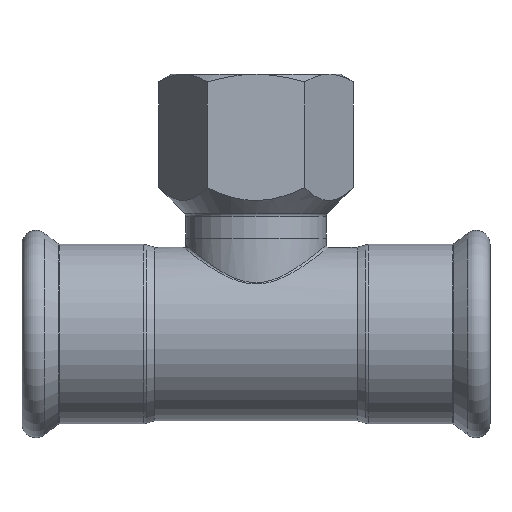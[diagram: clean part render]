
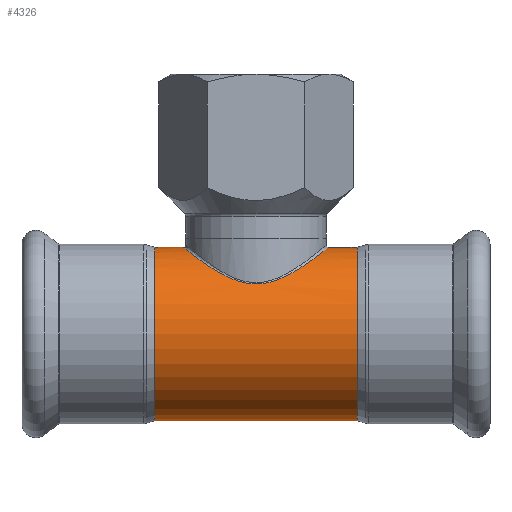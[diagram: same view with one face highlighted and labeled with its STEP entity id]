
A CAD part, front view. The second image highlights one B-rep face of the part: STEP entity #4326.
In plain terms, the highlighted cylindrical face has radius 18.5 mm (diameter 37 mm), a partial arc.
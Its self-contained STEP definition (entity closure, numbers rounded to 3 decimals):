
#71 = VERTEX_POINT ( 'NONE', #2841 ) ;
#145 = DIRECTION ( 'NONE',  ( 1., 0., 0. ) ) ;
#288 = CARTESIAN_POINT ( 'NONE',  ( 15.5, -0.505, 18.5 ) ) ;
#301 = CARTESIAN_POINT ( 'NONE',  ( 21.604, 0., -18.5 ) ) ;
#309 = CARTESIAN_POINT ( 'NONE',  ( -14.321, -5.793, 17.576 ) ) ;
#324 = CARTESIAN_POINT ( 'NONE',  ( -3.739, -14.654, 11.293 ) ) ;
#334 = CARTESIAN_POINT ( 'NONE',  ( -21.604, 0., 18.5 ) ) ;
#337 = CARTESIAN_POINT ( 'NONE',  ( -2.039, -14.963, 10.879 ) ) ;
#405 = VERTEX_POINT ( 'NONE', #334 ) ;
#444 = EDGE_CURVE ( 'NONE', #71, #3693, #780, .T. ) ;
#452 = CIRCLE ( 'NONE', #4088, 18.5 ) ;
#513 = ORIENTED_EDGE ( 'NONE', *, *, #3012, .T. ) ;
#519 = EDGE_CURVE ( 'NONE', #3693, #1826, #452, .T. ) ;
#638 = CARTESIAN_POINT ( 'NONE',  ( -13.455, -7.507, 16.914 ) ) ;
#654 = CARTESIAN_POINT ( 'NONE',  ( 7.193, -13.376, 12.783 ) ) ;
#664 = CARTESIAN_POINT ( 'NONE',  ( -5.11, -14.256, 11.793 ) ) ;
#681 = CARTESIAN_POINT ( 'NONE',  ( -12.15, -9.414, 15.945 ) ) ;
#698 = ORIENTED_EDGE ( 'NONE', *, *, #444, .F. ) ;
#780 = LINE ( 'NONE', #3015, #1976 ) ;
#900 = ORIENTED_EDGE ( 'NONE', *, *, #4082, .T. ) ;
#940 = DIRECTION ( 'NONE',  ( 1., 0., 0. ) ) ;
#965 = CARTESIAN_POINT ( 'NONE',  ( -14.123, -6.238, 17.423 ) ) ;
#981 = CARTESIAN_POINT ( 'NONE',  ( -0.79, -15.08, 10.716 ) ) ;
#995 = DIRECTION ( 'NONE',  ( 0., 0., -1. ) ) ;
#997 = CARTESIAN_POINT ( 'NONE',  ( -2.78, -14.849, 11.034 ) ) ;
#1002 = EDGE_CURVE ( 'NONE', #4216, #3356, #3831, .T. ) ;
#1072 = FACE_OUTER_BOUND ( 'NONE', #2553, .T. ) ;
#1172 = CYLINDRICAL_SURFACE ( 'NONE', #2200, 18.5 ) ;
#1271 = CARTESIAN_POINT ( 'NONE',  ( 15.369, -2.025, 18.396 ) ) ;
#1296 = CARTESIAN_POINT ( 'NONE',  ( 6.367, -13.767, 12.361 ) ) ;
#1310 = CARTESIAN_POINT ( 'NONE',  ( -10.918, -10.75, 15.077 ) ) ;
#1322 = CARTESIAN_POINT ( 'NONE',  ( 0.217, -15.099, 10.69 ) ) ;
#1329 = CARTESIAN_POINT ( 'NONE',  ( 21.604, 0., 18.5 ) ) ;
#1333 = DIRECTION ( 'NONE',  ( 1., 0., 0. ) ) ;
#1481 = CARTESIAN_POINT ( 'NONE',  ( -15.289, -2.484, 18.332 ) ) ;
#1568 = CARTESIAN_POINT ( 'NONE',  ( -21.604, 0., -18.5 ) ) ;
#1571 = CARTESIAN_POINT ( 'NONE',  ( -15.289, -2.484, 18.332 ) ) ;
#1637 = CARTESIAN_POINT ( 'NONE',  ( 11.826, -9.797, 15.712 ) ) ;
#1650 = CARTESIAN_POINT ( 'NONE',  ( -13.688, -7.097, 17.091 ) ) ;
#1666 = CARTESIAN_POINT ( 'NONE',  ( -6.419, -13.745, 12.386 ) ) ;
#1707 = LINE ( 'NONE', #3979, #3124 ) ;
#1716 = DIRECTION ( 'NONE',  ( 1., 0., 0. ) ) ;
#1815 = CARTESIAN_POINT ( 'NONE',  ( 51.859, 0., 18.5 ) ) ;
#1816 = CARTESIAN_POINT ( 'NONE',  ( -15.5, -0.417, 18.5 ) ) ;
#1826 = VERTEX_POINT ( 'NONE', #301 ) ;
#1828 = CARTESIAN_POINT ( 'NONE',  ( -15.5, 0., 18.5 ) ) ;
#1925 = AXIS2_PLACEMENT_3D ( 'NONE', #2606, #940, #3284 ) ;
#1970 = CARTESIAN_POINT ( 'NONE',  ( 2.244, -14.966, 10.876 ) ) ;
#1976 = VECTOR ( 'NONE', #1333, 1000. ) ;
#1986 = CARTESIAN_POINT ( 'NONE',  ( 8.761, -12.458, 13.681 ) ) ;
#1997 = CARTESIAN_POINT ( 'NONE',  ( -1.291, -15.048, 10.762 ) ) ;
#2054 = DIRECTION ( 'NONE',  ( 0., 0., -1. ) ) ;
#2199 = ORIENTED_EDGE ( 'NONE', *, *, #519, .F. ) ;
#2200 = AXIS2_PLACEMENT_3D ( 'NONE', #2655, #1716, #2054 ) ;
#2206 = CARTESIAN_POINT ( 'NONE',  ( -15.117, -3.484, 18.197 ) ) ;
#2259 = DIRECTION ( 'NONE',  ( 1., 0., 0. ) ) ;
#2301 = CARTESIAN_POINT ( 'NONE',  ( -3.022, -14.804, 11.094 ) ) ;
#2315 = CARTESIAN_POINT ( 'NONE',  ( 5.066, -14.271, 11.776 ) ) ;
#2327 = CARTESIAN_POINT ( 'NONE',  ( 3.211, -14.795, 11.114 ) ) ;
#2353 = VERTEX_POINT ( 'NONE', #1568 ) ;
#2532 = CIRCLE ( 'NONE', #1925, 18.5 ) ;
#2553 = EDGE_LOOP ( 'NONE', ( #4344, #900, #513, #2199, #698, #3512, #2946 ) ) ;
#2606 = CARTESIAN_POINT ( 'NONE',  ( -21.604, 0., 0. ) ) ;
#2620 = CARTESIAN_POINT ( 'NONE',  ( 14.986, -3.979, 18.094 ) ) ;
#2647 = CARTESIAN_POINT ( 'NONE',  ( -14.85, -4.433, 17.986 ) ) ;
#2655 = CARTESIAN_POINT ( 'NONE',  ( 51.859, 0., 0. ) ) ;
#2666 = CARTESIAN_POINT ( 'NONE',  ( -4.203, -14.534, 11.448 ) ) ;
#2674 = CARTESIAN_POINT ( 'NONE',  ( -6.837, -13.552, 12.597 ) ) ;
#2815 = CARTESIAN_POINT ( 'NONE',  ( -15.359, -2.075, 18.388 ) ) ;
#2841 = CARTESIAN_POINT ( 'NONE',  ( 15.5, 0., 18.5 ) ) ;
#2946 = ORIENTED_EDGE ( 'NONE', *, *, #1002, .T. ) ;
#2959 = CARTESIAN_POINT ( 'NONE',  ( 14.69, -4.913, 17.861 ) ) ;
#2972 = CARTESIAN_POINT ( 'NONE',  ( -8.051, -12.927, 13.247 ) ) ;
#2986 = CARTESIAN_POINT ( 'NONE',  ( 4.612, -14.416, 11.596 ) ) ;
#3000 = CARTESIAN_POINT ( 'NONE',  ( 21.604, 0., 0. ) ) ;
#3005 = DIRECTION ( 'NONE',  ( 1., 0., 0. ) ) ;
#3007 = CARTESIAN_POINT ( 'NONE',  ( 13.463, -7.536, 16.918 ) ) ;
#3012 = EDGE_CURVE ( 'NONE', #2353, #1826, #1707, .T. ) ;
#3015 = CARTESIAN_POINT ( 'NONE',  ( 51.859, 0., 18.5 ) ) ;
#3017 = CARTESIAN_POINT ( 'NONE',  ( -12.708, -8.691, 16.355 ) ) ;
#3124 = VECTOR ( 'NONE', #2259, 1000. ) ;
#3238 = CARTESIAN_POINT ( 'NONE',  ( 15.474, -1.012, 18.479 ) ) ;
#3284 = DIRECTION ( 'NONE',  ( 0., 0., -1. ) ) ;
#3315 = CARTESIAN_POINT ( 'NONE',  ( 13.921, -6.707, 17.267 ) ) ;
#3328 = CARTESIAN_POINT ( 'NONE',  ( -10.24, -11.364, 14.616 ) ) ;
#3342 = CARTESIAN_POINT ( 'NONE',  ( -8.808, -12.45, 13.703 ) ) ;
#3356 = VERTEX_POINT ( 'NONE', #1828 ) ;
#3461 = EDGE_CURVE ( 'NONE', #405, #3356, #3493, .T. ) ;
#3493 = LINE ( 'NONE', #1815, #4046 ) ;
#3512 = ORIENTED_EDGE ( 'NONE', *, *, #4109, .T. ) ;
#3560 = B_SPLINE_CURVE_WITH_KNOTS ( 'NONE', 3,
 ( #4339, #288, #3238, #1271, #3981, #2620, #2959, #3315, #3007, #4040, #1637, #3658, #4010, #1986, #4026, #3673, #654, #1296, #4369, #2315, #2986, #2327, #1970, #4387, #1322, #981, #1997, #337, #4353, #997, #2301, #324, #2666, #664, #3689, #1666, #2674, #2972, #3342, #3328, #1310, #681, #3017, #638, #1650, #965, #309, #2647, #2206, #3893 ),
 .UNSPECIFIED., .F., .F.,
 ( 4, 2, 2, 2, 2, 2, 2, 2, 2, 2, 2, 2, 2, 2, 2, 2, 2, 2, 2, 2, 2, 2, 2, 2, 4 ),
 ( 0.051, 0.053, 0.054, 0.057, 0.06, 0.064, 0.067, 0.068, 0.07, 0.071, 0.073, 0.076, 0.077, 0.079, 0.08, 0.08, 0.082, 0.083, 0.085, 0.088, 0.091, 0.094, 0.096, 0.097, 0.1 ),
 .UNSPECIFIED. ) ;
#3658 = CARTESIAN_POINT ( 'NONE',  ( 10.552, -11.091, 14.827 ) ) ;
#3673 = CARTESIAN_POINT ( 'NONE',  ( 7.595, -13.164, 13.003 ) ) ;
#3689 = CARTESIAN_POINT ( 'NONE',  ( -5.553, -14.098, 11.982 ) ) ;
#3693 = VERTEX_POINT ( 'NONE', #1329 ) ;
#3831 = B_SPLINE_CURVE_WITH_KNOTS ( 'NONE', 3,
 ( #1481, #2815, #3866, #3854, #1816, #3882 ),
 .UNSPECIFIED., .F., .F.,
 ( 4, 2, 4 ),
 ( 0.1, 0.101, 0.103 ),
 .UNSPECIFIED. ) ;
#3854 = CARTESIAN_POINT ( 'NONE',  ( -15.482, -0.835, 18.486 ) ) ;
#3866 = CARTESIAN_POINT ( 'NONE',  ( -15.411, -1.663, 18.43 ) ) ;
#3882 = CARTESIAN_POINT ( 'NONE',  ( -15.5, 0., 18.5 ) ) ;
#3893 = CARTESIAN_POINT ( 'NONE',  ( -15.289, -2.484, 18.332 ) ) ;
#3979 = CARTESIAN_POINT ( 'NONE',  ( 51.859, 0., -18.5 ) ) ;
#3981 = CARTESIAN_POINT ( 'NONE',  ( 15.291, -2.521, 18.334 ) ) ;
#4010 = CARTESIAN_POINT ( 'NONE',  ( 9.867, -11.673, 14.369 ) ) ;
#4026 = CARTESIAN_POINT ( 'NONE',  ( 8.378, -12.705, 13.451 ) ) ;
#4040 = CARTESIAN_POINT ( 'NONE',  ( 12.418, -9.079, 16.142 ) ) ;
#4046 = VECTOR ( 'NONE', #145, 1000. ) ;
#4082 = EDGE_CURVE ( 'NONE', #405, #2353, #2532, .T. ) ;
#4088 = AXIS2_PLACEMENT_3D ( 'NONE', #3000, #3005, #995 ) ;
#4109 = EDGE_CURVE ( 'NONE', #71, #4216, #3560, .T. ) ;
#4216 = VERTEX_POINT ( 'NONE', #1571 ) ;
#4326 = ADVANCED_FACE ( 'NONE', ( #1072 ), #1172, .T. ) ;
#4339 = CARTESIAN_POINT ( 'NONE',  ( 15.5, 0., 18.5 ) ) ;
#4344 = ORIENTED_EDGE ( 'NONE', *, *, #3461, .F. ) ;
#4353 = CARTESIAN_POINT ( 'NONE',  ( -2.288, -14.929, 10.927 ) ) ;
#4369 = CARTESIAN_POINT ( 'NONE',  ( 5.942, -13.946, 12.158 ) ) ;
#4387 = CARTESIAN_POINT ( 'NONE',  ( 0.725, -15.084, 10.712 ) ) ;
